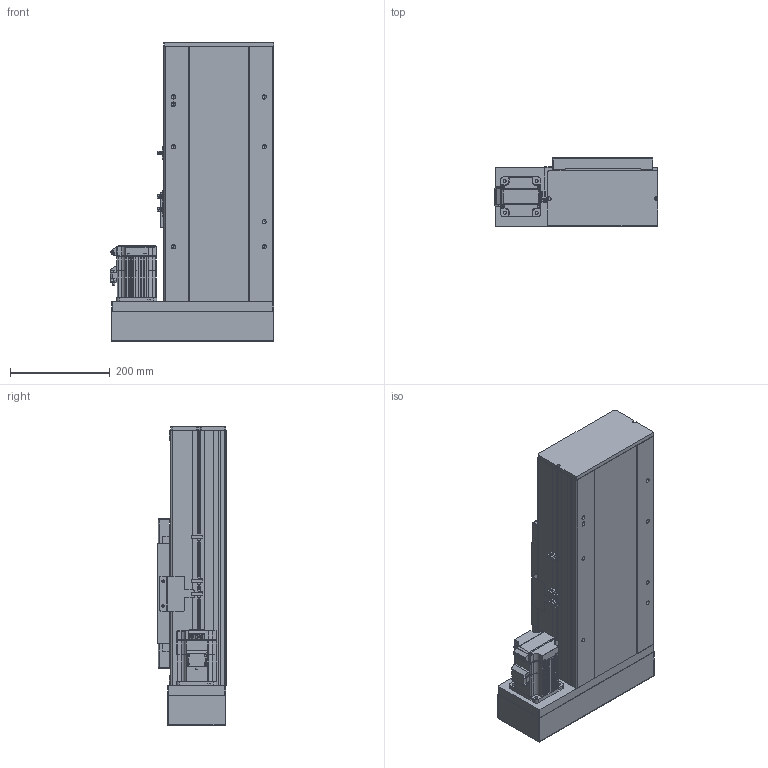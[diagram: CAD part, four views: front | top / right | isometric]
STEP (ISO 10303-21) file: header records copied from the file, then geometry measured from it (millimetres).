
FILE_DESCRIPTION (( 'STEP AP214' ), '1' );
FILE_NAME ('TPF22-100-BL-P75.STEP', '2023-03-29T03:35:03', ( '' ), ( '' ), 'SwSTEP 2.0', 'SolidWorks 2020', '' );
FILE_SCHEMA (( 'AUTOMOTIVE_DESIGN' ));
Length unit declared in the file: millimetre
Products named in the file (8): TPF22-100-BL-P75; 葩璃 TPF22-BC-001 菁釱MZ-220-01^TPF22-BL-P75; 葩璃 TPF22-BC-002 耜裔ZTMZ-220-04^TPF22-BL-P75; 葩璃 詩湍150^TPF22-BL-P75; 葩璃 TPE22 賑雄殤^TPF22-BL-P75; 葩璃 TPF22-BL R-009 萇儂啣^TPF22-BL-P75_耳32-750W; 葩璃 MSMD08PC_P75^TPF22-BL-P75; 葩璃 pm-t65-672^TPF22-BL-P75
Assembly tree (10 placements, depth 2):
  TPF22-100-BL-P75
    葩璃 TPF22-BC-001 菁釱MZ-220-01^TPF22-BL-P75
    葩璃 TPF22-BC-002 耜裔ZTMZ-220-04^TPF22-BL-P75  x2
    葩璃 TPE22 賑雄殤^TPF22-BL-P75
    葩璃 詩湍150^TPF22-BL-P75
    葩璃 TPF22-BL R-009 萇儂啣^TPF22-BL-P75_耳32-750W
    葩璃 pm-t65-672^TPF22-BL-P75  x3
    葩璃 MSMD08PC_P75^TPF22-BL-P75
Bounding box: 327.5 x 138 x 599 mm (x, y, z)
Volume: 7809344.7 mm3; surface area: 1381773.7 mm2
Topology: 16 solids, 16 shells, 1512 faces, 3994 edges, 2571 vertices
Faces by surface type: plane 977, cylinder 463, cone 42, bspline 30
Entity records: 41599 total; most frequent: CARTESIAN_POINT 8885, ORIENTED_EDGE 6548, DIRECTION 6497, EDGE_CURVE 3274, LINE 2329, VECTOR 2329, VERTEX_POINT 2115, AXIS2_PLACEMENT_3D 2084
